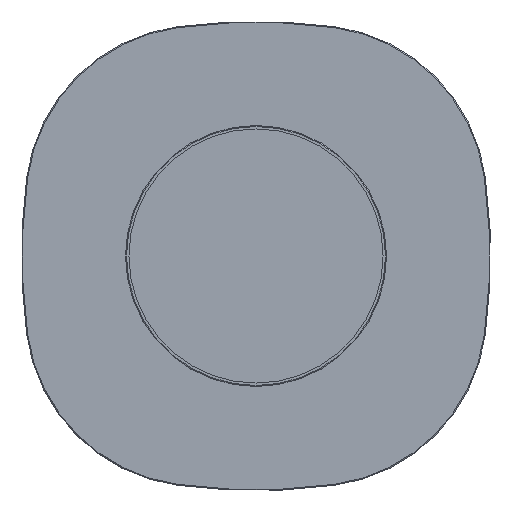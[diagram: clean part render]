
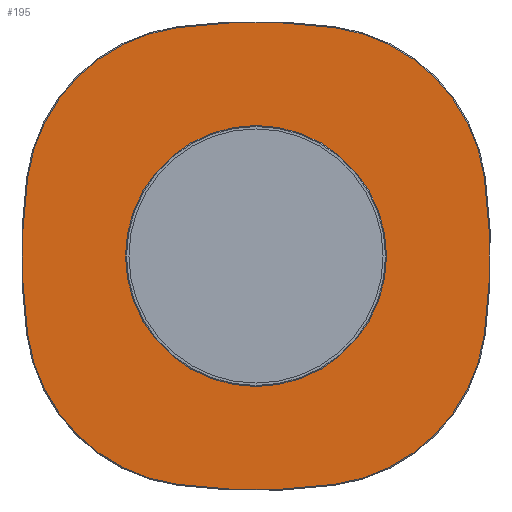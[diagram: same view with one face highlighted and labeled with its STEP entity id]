
A CAD part, front view. The second image highlights one B-rep face of the part: STEP entity #195.
In plain terms, the highlighted planar face has unit normal (0, -1, 0).
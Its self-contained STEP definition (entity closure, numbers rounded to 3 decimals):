
#105=CARTESIAN_POINT('',(0.,457.451,0.));
#106=DIRECTION('',(0.0,1.0,0.0));
#107=DIRECTION('',(0.0,0.0,-1.0));
#108=AXIS2_PLACEMENT_3D('',#105,#106,#107);
#109=PLANE('',#108);
#110=CARTESIAN_POINT('',(233.625,457.451,80.135));
#111=VERTEX_POINT('',#110);
#112=CARTESIAN_POINT('',(233.625,457.451,-80.135));
#113=VERTEX_POINT('',#112);
#114=CARTESIAN_POINT('',(-361.0,457.451,0.));
#115=DIRECTION('',(0.,1.0,0.));
#116=DIRECTION('',(0.991,0.,0.134));
#117=AXIS2_PLACEMENT_3D('',#114,#115,#116);
#118=CIRCLE('',#117,600.0);
#119=EDGE_CURVE('',#111,#113,#118,.T.);
#120=ORIENTED_EDGE('',*,*,#119,.F.);
#121=CARTESIAN_POINT('',(80.135,457.451,233.625));
#122=VERTEX_POINT('',#121);
#123=CARTESIAN_POINT('',(56.228,457.451,56.228));
#124=DIRECTION('',(0.,1.0,0.));
#125=DIRECTION('',(0.134,0.,0.991));
#126=AXIS2_PLACEMENT_3D('',#123,#124,#125);
#127=CIRCLE('',#126,179.);
#128=EDGE_CURVE('',#122,#111,#127,.T.);
#129=ORIENTED_EDGE('',*,*,#128,.F.);
#130=CARTESIAN_POINT('',(-80.135,457.451,233.625));
#131=VERTEX_POINT('',#130);
#132=CARTESIAN_POINT('',(0.,457.451,-361.0));
#133=DIRECTION('',(0.,1.0,0.));
#134=DIRECTION('',(-0.134,0.,0.991));
#135=AXIS2_PLACEMENT_3D('',#132,#133,#134);
#136=CIRCLE('',#135,600.0);
#137=EDGE_CURVE('',#131,#122,#136,.T.);
#138=ORIENTED_EDGE('',*,*,#137,.F.);
#139=CARTESIAN_POINT('',(-233.625,457.451,80.135));
#140=VERTEX_POINT('',#139);
#141=CARTESIAN_POINT('',(-56.228,457.451,56.228));
#142=DIRECTION('',(0.,1.0,0.));
#143=DIRECTION('',(-0.991,0.,0.134));
#144=AXIS2_PLACEMENT_3D('',#141,#142,#143);
#145=CIRCLE('',#144,179.);
#146=EDGE_CURVE('',#140,#131,#145,.T.);
#147=ORIENTED_EDGE('',*,*,#146,.F.);
#148=CARTESIAN_POINT('',(-233.625,457.451,-80.135));
#149=VERTEX_POINT('',#148);
#150=CARTESIAN_POINT('',(361.0,457.451,0.));
#151=DIRECTION('',(0.,1.0,0.));
#152=DIRECTION('',(-0.991,0.,-0.134));
#153=AXIS2_PLACEMENT_3D('',#150,#151,#152);
#154=CIRCLE('',#153,600.0);
#155=EDGE_CURVE('',#149,#140,#154,.T.);
#156=ORIENTED_EDGE('',*,*,#155,.F.);
#157=CARTESIAN_POINT('',(-80.135,457.451,-233.625));
#158=VERTEX_POINT('',#157);
#159=CARTESIAN_POINT('',(-56.228,457.451,-56.228));
#160=DIRECTION('',(0.,1.0,0.));
#161=DIRECTION('',(-0.134,0.,-0.991));
#162=AXIS2_PLACEMENT_3D('',#159,#160,#161);
#163=CIRCLE('',#162,179.);
#164=EDGE_CURVE('',#158,#149,#163,.T.);
#165=ORIENTED_EDGE('',*,*,#164,.F.);
#166=CARTESIAN_POINT('',(80.135,457.451,-233.625));
#167=VERTEX_POINT('',#166);
#168=CARTESIAN_POINT('',(0.,457.451,361.0));
#169=DIRECTION('',(0.,1.0,0.));
#170=DIRECTION('',(0.134,0.,-0.991));
#171=AXIS2_PLACEMENT_3D('',#168,#169,#170);
#172=CIRCLE('',#171,600.0);
#173=EDGE_CURVE('',#167,#158,#172,.T.);
#174=ORIENTED_EDGE('',*,*,#173,.F.);
#175=CARTESIAN_POINT('',(56.228,457.451,-56.228));
#176=DIRECTION('',(0.,1.0,0.));
#177=DIRECTION('',(0.991,0.,-0.134));
#178=AXIS2_PLACEMENT_3D('',#175,#176,#177);
#179=CIRCLE('',#178,179.);
#180=EDGE_CURVE('',#113,#167,#179,.T.);
#181=ORIENTED_EDGE('',*,*,#180,.F.);
#182=EDGE_LOOP('',(#120,#129,#138,#147,#156,#165,#174,#181));
#183=FACE_OUTER_BOUND('',#182,.T.);
#184=CARTESIAN_POINT('',(0.,457.451,-19.75));
#185=VERTEX_POINT('',#184);
#186=CARTESIAN_POINT('',(0.,457.451,0.));
#187=DIRECTION('',(0.0,-1.0,0.0));
#188=DIRECTION('',(0.0,0.0,1.0));
#189=AXIS2_PLACEMENT_3D('',#186,#187,#188);
#190=CIRCLE('',#189,19.75);
#191=EDGE_CURVE('',#185,#185,#190,.T.);
#192=ORIENTED_EDGE('',*,*,#191,.F.);
#193=EDGE_LOOP('',(#192));
#194=FACE_BOUND('',#193,.T.);
#195=ADVANCED_FACE('',(#183,#194),#109,.F.);
